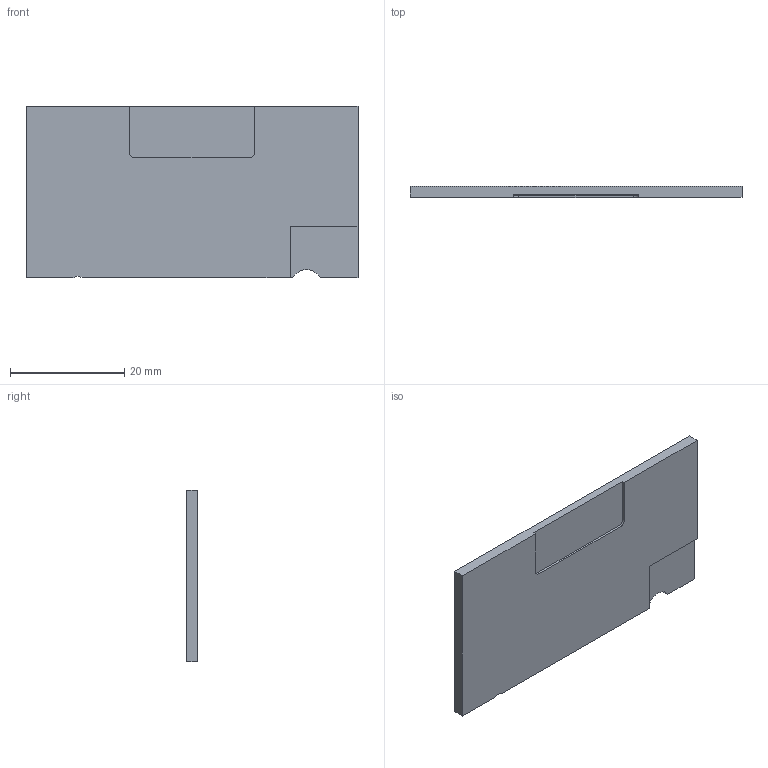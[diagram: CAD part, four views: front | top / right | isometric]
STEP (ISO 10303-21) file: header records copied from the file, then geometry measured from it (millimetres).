
FILE_DESCRIPTION(('Open CASCADE Model'),'2;1');
FILE_NAME('Open CASCADE Shape Model','2026-09-06T11:49:08',('Author'),( 'Open CASCADE'),'Open CASCADE STEP processor 7.8','build123d', 'Unknown');
FILE_SCHEMA(('AUTOMOTIVE_DESIGN { 1 0 10303 214 1 1 1 1 }'));
Length unit declared in the file: millimetre
Products named in the file (2): =>[0:1:1:2]; SOLID
Assembly tree (1 placements, depth 2):
  =>[0:1:1:2]
    SOLID
Bounding box: 58 x 1.9 x 30 mm (x, y, z)
Volume: 3142 mm3; surface area: 3814 mm2
Topology: 1 solids, 1 shells, 21 faces, 57 edges, 38 vertices
Faces by surface type: plane 16, cylinder 5
Entity records: 1383 total; most frequent: CARTESIAN_POINT 306, DIRECTION 168, ORIENTED_EDGE 114, PCURVE 114, DEFINITIONAL_REPRESENTATION 114, LINE 95, VECTOR 95, EDGE_CURVE 57
